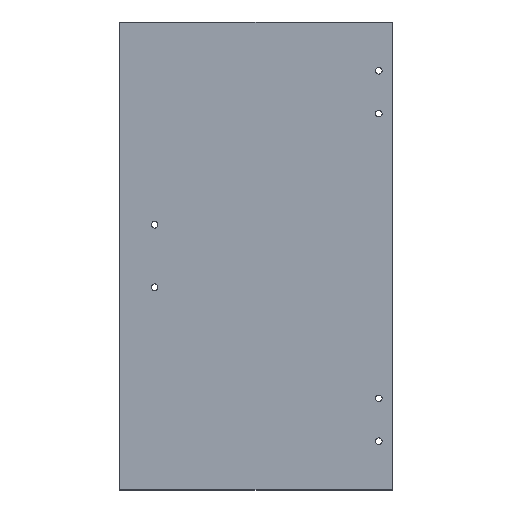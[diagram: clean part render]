
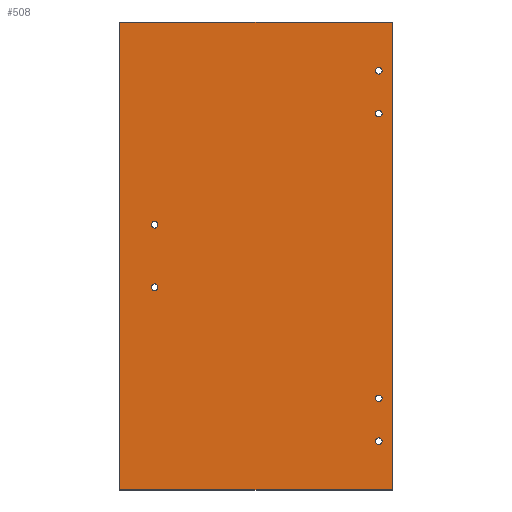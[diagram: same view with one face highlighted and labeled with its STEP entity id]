
A CAD part, top view. The second image highlights one B-rep face of the part: STEP entity #508.
In plain terms, the highlighted planar face has unit normal (0, 0, 1).
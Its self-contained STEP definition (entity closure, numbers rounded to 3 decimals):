
#1=CARTESIAN_POINT('',(-16.9,28.2,0.));
#2=DIRECTION('',(0.,0.,1.));
#3=DIRECTION('',(1.,0.,0.));
#4=AXIS2_PLACEMENT_3D('',#1,#2,#3);
#6=CARTESIAN_POINT('',(-16.9,28.2,0.));
#7=DIRECTION('',(0.,0.,1.));
#8=DIRECTION('',(-1.,0.,0.));
#9=AXIS2_PLACEMENT_3D('',#6,#7,#8);
#11=CARTESIAN_POINT('',(-16.9,17.2,0.));
#12=DIRECTION('',(0.,0.,1.));
#13=DIRECTION('',(1.,0.,0.));
#14=AXIS2_PLACEMENT_3D('',#11,#12,#13);
#16=CARTESIAN_POINT('',(-16.9,17.2,0.));
#17=DIRECTION('',(0.,0.,1.));
#18=DIRECTION('',(-1.,0.,0.));
#19=AXIS2_PLACEMENT_3D('',#16,#17,#18);
#21=CARTESIAN_POINT('',(-16.9,-55.8,0.));
#22=DIRECTION('',(0.,0.,1.));
#23=DIRECTION('',(1.,0.,0.));
#24=AXIS2_PLACEMENT_3D('',#21,#22,#23);
#26=CARTESIAN_POINT('',(-16.9,-55.8,0.));
#27=DIRECTION('',(0.,0.,1.));
#28=DIRECTION('',(-1.,0.,0.));
#29=AXIS2_PLACEMENT_3D('',#26,#27,#28);
#31=CARTESIAN_POINT('',(-16.9,-66.8,0.));
#32=DIRECTION('',(0.,0.,1.));
#33=DIRECTION('',(1.,0.,0.));
#34=AXIS2_PLACEMENT_3D('',#31,#32,#33);
#36=CARTESIAN_POINT('',(-16.9,-66.8,0.));
#37=DIRECTION('',(0.,0.,1.));
#38=DIRECTION('',(-1.,0.,0.));
#39=AXIS2_PLACEMENT_3D('',#36,#37,#38);
#41=CARTESIAN_POINT('',(-74.4,-11.3,0.));
#42=DIRECTION('',(0.,0.,1.));
#43=DIRECTION('',(0.,-1.,0.));
#44=AXIS2_PLACEMENT_3D('',#41,#42,#43);
#46=CARTESIAN_POINT('',(-74.4,-11.3,0.));
#47=DIRECTION('',(0.,0.,1.));
#48=DIRECTION('',(0.,1.,0.));
#49=AXIS2_PLACEMENT_3D('',#46,#47,#48);
#51=CARTESIAN_POINT('',(-74.4,-27.3,0.));
#52=DIRECTION('',(0.,0.,1.));
#53=DIRECTION('',(0.,-1.,0.));
#54=AXIS2_PLACEMENT_3D('',#51,#52,#53);
#56=CARTESIAN_POINT('',(-74.4,-27.3,0.));
#57=DIRECTION('',(0.,0.,1.));
#58=DIRECTION('',(0.,1.,0.));
#59=AXIS2_PLACEMENT_3D('',#56,#57,#58);
#61=DIRECTION('',(0.,1.,0.));
#62=VECTOR('',#61,120.);
#63=CARTESIAN_POINT('',(-83.4,-79.3,0.));
#64=LINE('',#63,#62);
#65=DIRECTION('',(1.,0.,0.));
#66=VECTOR('',#65,70.);
#67=CARTESIAN_POINT('',(-83.4,40.7,0.));
#68=LINE('',#67,#66);
#69=DIRECTION('',(0.,-1.,0.));
#70=VECTOR('',#69,120.);
#71=CARTESIAN_POINT('',(-13.4,40.7,0.));
#72=LINE('',#71,#70);
#73=DIRECTION('',(-1.,0.,0.));
#74=VECTOR('',#73,70.);
#75=CARTESIAN_POINT('',(-13.4,-79.3,0.));
#76=LINE('',#75,#74);
#349=CARTESIAN_POINT('',(-13.4,-79.3,0.));
#350=CARTESIAN_POINT('',(-83.4,-79.3,0.));
#351=VERTEX_POINT('',#349);
#352=VERTEX_POINT('',#350);
#353=CARTESIAN_POINT('',(-13.4,40.7,0.));
#354=VERTEX_POINT('',#353);
#355=CARTESIAN_POINT('',(-83.4,40.7,0.));
#356=VERTEX_POINT('',#355);
#409=CARTESIAN_POINT('',(-16.05,28.2,0.));
#410=CARTESIAN_POINT('',(-17.75,28.2,0.));
#411=VERTEX_POINT('',#409);
#412=VERTEX_POINT('',#410);
#413=CARTESIAN_POINT('',(-16.05,17.2,0.));
#414=CARTESIAN_POINT('',(-17.75,17.2,0.));
#415=VERTEX_POINT('',#413);
#416=VERTEX_POINT('',#414);
#417=CARTESIAN_POINT('',(-16.05,-55.8,0.));
#418=CARTESIAN_POINT('',(-17.75,-55.8,0.));
#419=VERTEX_POINT('',#417);
#420=VERTEX_POINT('',#418);
#421=CARTESIAN_POINT('',(-16.05,-66.8,0.));
#422=CARTESIAN_POINT('',(-17.75,-66.8,0.));
#423=VERTEX_POINT('',#421);
#424=VERTEX_POINT('',#422);
#441=CARTESIAN_POINT('',(-74.4,-12.15,0.));
#442=CARTESIAN_POINT('',(-74.4,-10.45,0.));
#443=VERTEX_POINT('',#441);
#444=VERTEX_POINT('',#442);
#445=CARTESIAN_POINT('',(-74.4,-28.15,0.));
#446=CARTESIAN_POINT('',(-74.4,-26.45,0.));
#447=VERTEX_POINT('',#445);
#448=VERTEX_POINT('',#446);
#457=CARTESIAN_POINT('',(0.,0.,0.));
#458=DIRECTION('',(0.,0.,1.));
#459=DIRECTION('',(1.,0.,0.));
#460=AXIS2_PLACEMENT_3D('',#457,#458,#459);
#461=PLANE('',#460);
#463=ORIENTED_EDGE('',*,*,#462,.T.);
#465=ORIENTED_EDGE('',*,*,#464,.T.);
#467=ORIENTED_EDGE('',*,*,#466,.T.);
#469=ORIENTED_EDGE('',*,*,#468,.T.);
#470=EDGE_LOOP('',(#463,#465,#467,#469));
#471=FACE_OUTER_BOUND('',#470,.F.);
#473=ORIENTED_EDGE('',*,*,#472,.T.);
#475=ORIENTED_EDGE('',*,*,#474,.T.);
#476=EDGE_LOOP('',(#473,#475));
#477=FACE_BOUND('',#476,.F.);
#479=ORIENTED_EDGE('',*,*,#478,.T.);
#481=ORIENTED_EDGE('',*,*,#480,.T.);
#482=EDGE_LOOP('',(#479,#481));
#483=FACE_BOUND('',#482,.F.);
#485=ORIENTED_EDGE('',*,*,#484,.T.);
#487=ORIENTED_EDGE('',*,*,#486,.T.);
#488=EDGE_LOOP('',(#485,#487));
#489=FACE_BOUND('',#488,.F.);
#491=ORIENTED_EDGE('',*,*,#490,.T.);
#493=ORIENTED_EDGE('',*,*,#492,.T.);
#494=EDGE_LOOP('',(#491,#493));
#495=FACE_BOUND('',#494,.F.);
#497=ORIENTED_EDGE('',*,*,#496,.T.);
#499=ORIENTED_EDGE('',*,*,#498,.T.);
#500=EDGE_LOOP('',(#497,#499));
#501=FACE_BOUND('',#500,.F.);
#503=ORIENTED_EDGE('',*,*,#502,.T.);
#505=ORIENTED_EDGE('',*,*,#504,.T.);
#506=EDGE_LOOP('',(#503,#505));
#507=FACE_BOUND('',#506,.F.);
#508=ADVANCED_FACE('',(#471,#477,#483,#489,#495,#501,#507),#461,.T.);
#5=CIRCLE('',#4,0.85);
#10=CIRCLE('',#9,0.85);
#15=CIRCLE('',#14,0.85);
#20=CIRCLE('',#19,0.85);
#25=CIRCLE('',#24,0.85);
#30=CIRCLE('',#29,0.85);
#35=CIRCLE('',#34,0.85);
#40=CIRCLE('',#39,0.85);
#45=CIRCLE('',#44,0.85);
#50=CIRCLE('',#49,0.85);
#55=CIRCLE('',#54,0.85);
#60=CIRCLE('',#59,0.85);
#462=EDGE_CURVE('',#352,#356,#64,.T.);
#464=EDGE_CURVE('',#356,#354,#68,.T.);
#466=EDGE_CURVE('',#354,#351,#72,.T.);
#468=EDGE_CURVE('',#351,#352,#76,.T.);
#472=EDGE_CURVE('',#415,#416,#15,.T.);
#474=EDGE_CURVE('',#416,#415,#20,.T.);
#478=EDGE_CURVE('',#419,#420,#25,.T.);
#480=EDGE_CURVE('',#420,#419,#30,.T.);
#484=EDGE_CURVE('',#423,#424,#35,.T.);
#486=EDGE_CURVE('',#424,#423,#40,.T.);
#490=EDGE_CURVE('',#443,#444,#45,.T.);
#492=EDGE_CURVE('',#444,#443,#50,.T.);
#496=EDGE_CURVE('',#447,#448,#55,.T.);
#498=EDGE_CURVE('',#448,#447,#60,.T.);
#502=EDGE_CURVE('',#411,#412,#5,.T.);
#504=EDGE_CURVE('',#412,#411,#10,.T.);
